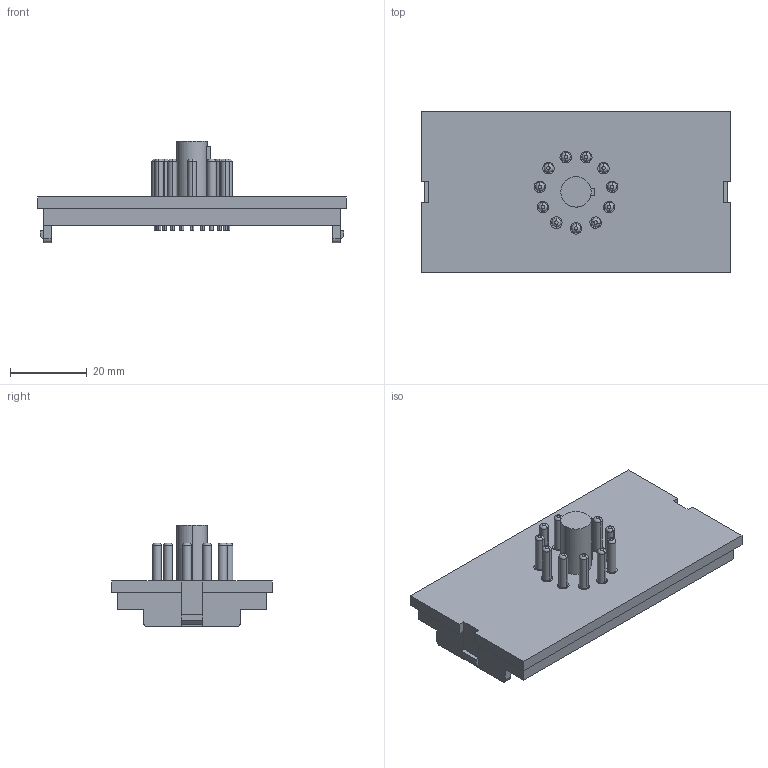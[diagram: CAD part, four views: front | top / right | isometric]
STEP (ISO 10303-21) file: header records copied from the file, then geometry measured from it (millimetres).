
FILE_DESCRIPTION (( 'STEP AP214' ), '1' );
FILE_NAME ('Tapa amb conectors.STEP', '2016-10-05T13:43:55', ( 'aaa' ), ( '' ), 'SwSTEP 2.0', 'SolidWorks 2013', '' );
FILE_SCHEMA (( 'AUTOMOTIVE_DESIGN' ));
Length unit declared in the file: millimetre
Products named in the file (3): Conector; Tapa sense conectors PP17; Tapa amb conectors
Assembly tree (12 placements, depth 2):
  Tapa amb conectors
    Tapa sense conectors PP17
    Conector  x11
Bounding box: 80.5 x 42 x 26.4 mm (x, y, z)
Volume: 13330.3 mm3; surface area: 13171.7 mm2
Topology: 12 solids, 12 shells, 309 faces, 692 edges, 444 vertices
Faces by surface type: cylinder 148, plane 117, torus 44
Entity records: 5410 total; most frequent: DIRECTION 986, CARTESIAN_POINT 900, ORIENTED_EDGE 864, EDGE_CURVE 432, AXIS2_PLACEMENT_3D 370, VERTEX_POINT 284, VECTOR 246, LINE 246
